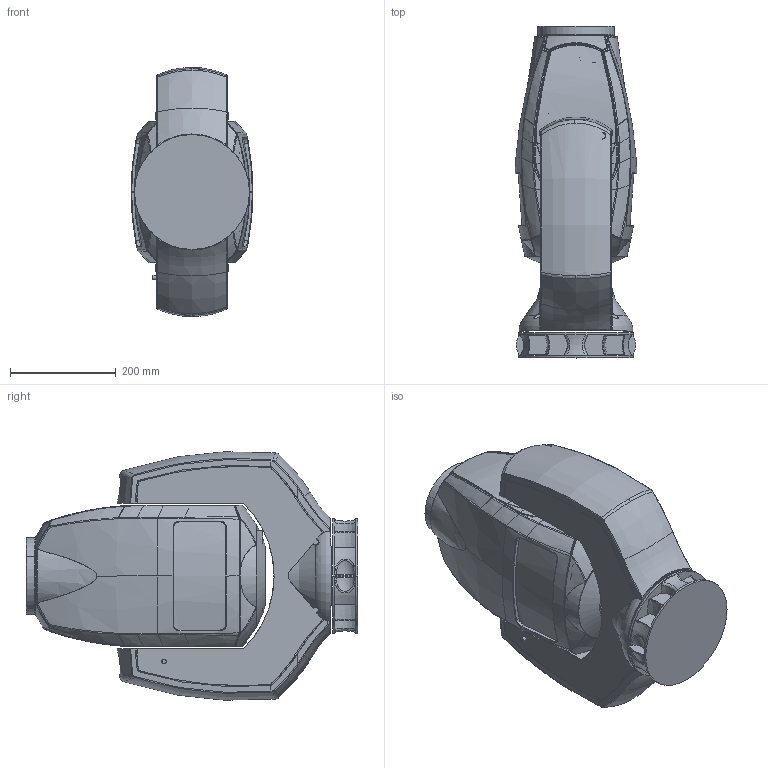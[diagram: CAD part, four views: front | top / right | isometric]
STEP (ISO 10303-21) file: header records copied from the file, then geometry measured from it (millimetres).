
FILE_DESCRIPTION((''),'2;1');
FILE_NAME('GT-1_ASM_359_SW0001','2016-09-16T',('fw'),(''),'CREO PARAMETRIC BY PTC INC, 2015380','CREO PARAMETRIC BY PTC INC, 2015380','');
FILE_SCHEMA(('AUTOMOTIVE_DESIGN { 1 0 10303 214 1 1 1 1 }'));
Products named in the file (1): GT-1_ASM_359_SW0001
Bounding box: 229.77 x 626.38 x 468.89 mm (x, y, z)
Surface area: 1059124.4 mm2 (no closed solid volume)
Topology: 0 solids, 100 shells, 735 faces, 3001 edges, 2329 vertices
Faces by surface type: bspline 343, cylinder 98, torus 94, plane 72, cone 55, extrusion 38, sphere 35
Entity records: 72669 total; most frequent: CARTESIAN_POINT 44196, ORIENTED_EDGE 4131, PRESENTATION_STYLE_ASSIGNMENT 3053, STYLED_ITEM 3022, CURVE_STYLE 2976, EDGE_CURVE 2976, VERTEX_POINT 2327, DIRECTION 2299
